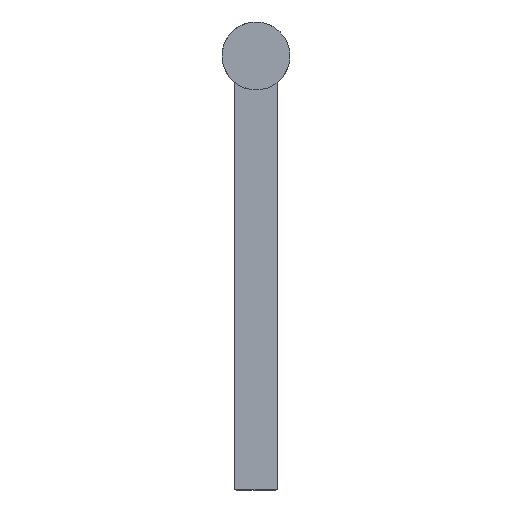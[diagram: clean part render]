
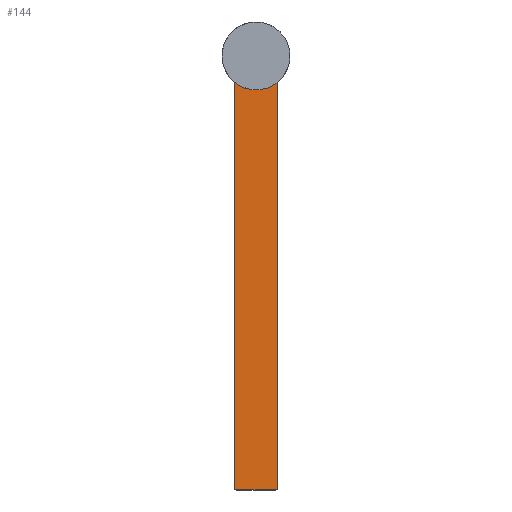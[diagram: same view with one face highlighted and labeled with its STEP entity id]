
A CAD part, top view. The second image highlights one B-rep face of the part: STEP entity #144.
In plain terms, the highlighted planar face has unit normal (0, 0, 1).
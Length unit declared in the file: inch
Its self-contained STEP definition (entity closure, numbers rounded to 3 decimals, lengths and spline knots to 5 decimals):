
#112=FACE_OUTER_BOUND('',#292,.T.);
#144=ADVANCED_FACE('',(#112),#161,.F.);
#161=PLANE('',#568);
#176=LINE('',#873,#193);
#177=LINE('',#875,#194);
#180=LINE('',#881,#197);
#193=VECTOR('',#692,1.);
#194=VECTOR('',#695,1.);
#197=VECTOR('',#700,1.);
#292=EDGE_LOOP('',(#376,#377,#378,#379));
#376=ORIENTED_EDGE('',*,*,#469,.F.);
#377=ORIENTED_EDGE('',*,*,#480,.F.);
#378=ORIENTED_EDGE('',*,*,#484,.F.);
#379=ORIENTED_EDGE('',*,*,#481,.T.);
#426=VERTEX_POINT('',#847);
#427=VERTEX_POINT('',#849);
#435=VERTEX_POINT('',#872);
#436=VERTEX_POINT('',#876);
#469=EDGE_CURVE('',#426,#427,#508,.T.);
#480=EDGE_CURVE('',#435,#426,#176,.T.);
#481=EDGE_CURVE('',#436,#427,#177,.T.);
#484=EDGE_CURVE('',#436,#435,#180,.T.);
#508=CIRCLE('',#556,1.0025);
#556=AXIS2_PLACEMENT_3D('',#848,#666,#667);
#568=AXIS2_PLACEMENT_3D('',#882,#701,#702);
#666=DIRECTION('',(0.,0.,1.));
#667=DIRECTION('',(-1.,0.,0.));
#692=DIRECTION('',(0.,1.,0.));
#695=DIRECTION('',(0.,1.,0.));
#700=DIRECTION('',(-1.,0.,0.));
#701=DIRECTION('',(0.,0.,-1.));
#702=DIRECTION('',(-1.,0.,0.));
#847=CARTESIAN_POINT('',(-0.625,-0.78382,0.));
#848=CARTESIAN_POINT('',(0.,0.,0.));
#849=CARTESIAN_POINT('',(0.625,-0.78382,0.));
#872=CARTESIAN_POINT('',(-0.625,-12.8125,0.));
#873=CARTESIAN_POINT('',(-0.625,-12.8125,0.));
#875=CARTESIAN_POINT('',(0.625,-12.8125,0.));
#876=CARTESIAN_POINT('',(0.625,-12.8125,0.));
#881=CARTESIAN_POINT('',(1.,-12.8125,0.));
#882=CARTESIAN_POINT('',(1.,-12.8125,0.));
